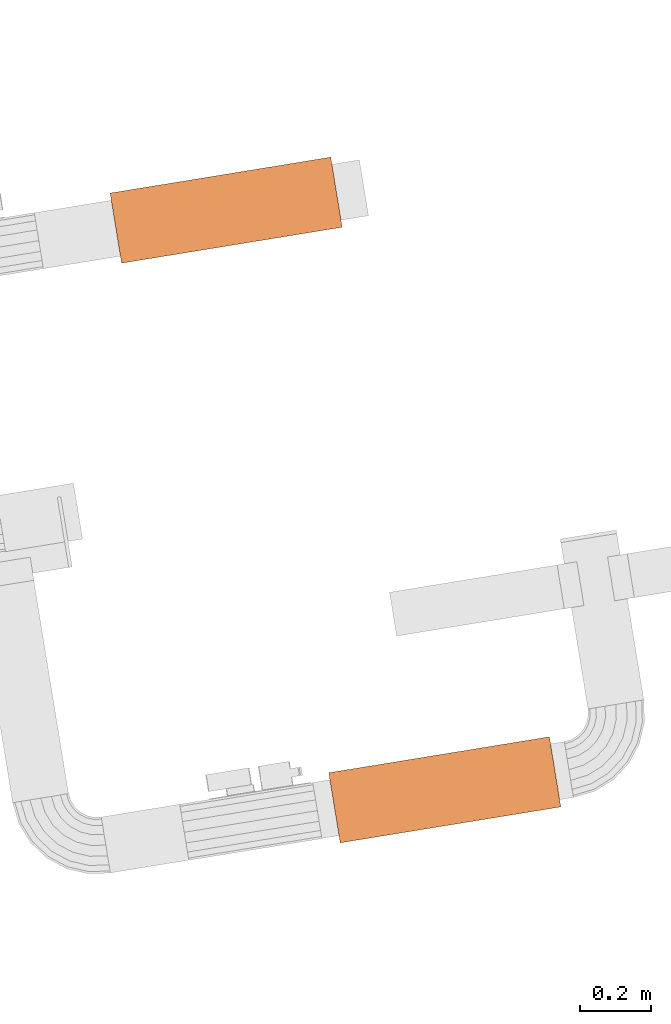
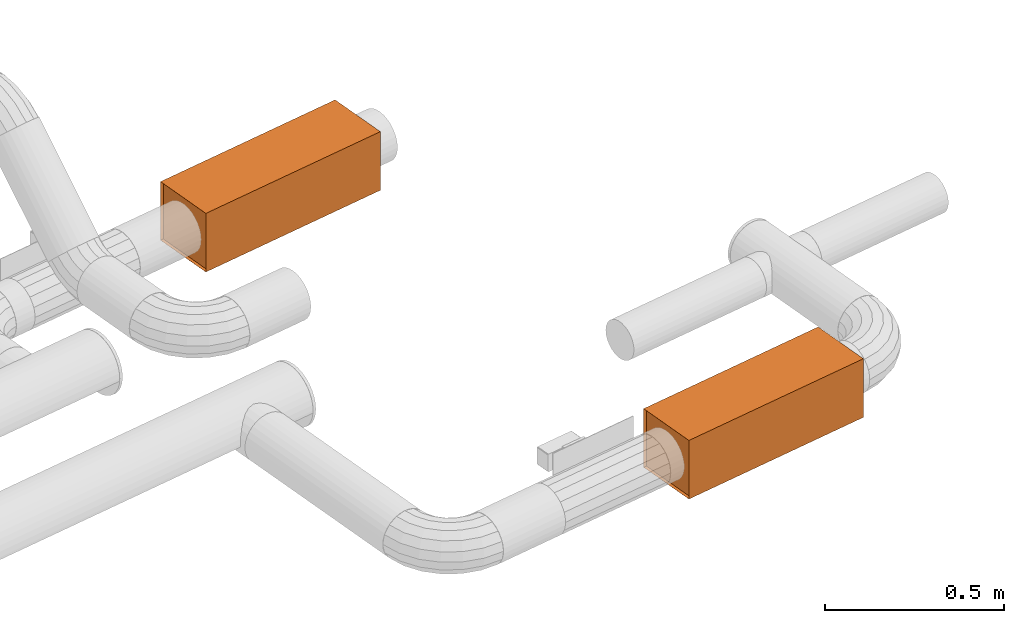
# One storey, part 19 of 19: 2 proxies.
"""IFC2X3 building model written with IfcOpenShell, lengths in millimetres."""

from ifc_helpers import new_model, entity, si_unit, converted_unit, derived_unit, direction, frame, frame_2d, origin, origin_with_axes, origin_2d_with_axis, place, context, subcontext, project, spatial, rectangle, extrude, source, transform, mapped, material, type_object, element, save


model = new_model("IFC2X3")

# Units and contexts
model_context = context("Model", 3, precision=0.01, world=origin(), true_north=direction((6.12323399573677e-17, 1.0)))
plan_context = context("Plan", 3, precision=1e-05, world=origin_with_axes())
body_context = subcontext(model_context, "Body", "Model", "MODEL_VIEW")
ifc_project = project(units=[converted_unit("PLANEANGLEUNIT", "DEGREE", entity("IfcPositiveLengthMeasure", 0.0174532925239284), si_unit("PLANEANGLEUNIT", "RADIAN"), dimensions=[0, 0, 0, 0, 0, 0, 0]), si_unit("AREAUNIT", "SQUARE_METRE"), si_unit("LENGTHUNIT", "METRE", prefix="MILLI"), si_unit("MASSUNIT", "GRAM", prefix="KILO"), si_unit("POWERUNIT", "WATT"), si_unit("PRESSUREUNIT", "PASCAL", prefix="KILO"), si_unit("FORCEUNIT", "NEWTON", prefix="KILO"), si_unit("ELECTRICVOLTAGEUNIT", "VOLT"), si_unit("ELECTRICCURRENTUNIT", "AMPERE"), si_unit("THERMODYNAMICTEMPERATUREUNIT", "DEGREE_CELSIUS"), si_unit("TIMEUNIT", "SECOND"), si_unit("VOLUMEUNIT", "CUBIC_METRE"), derived_unit("LINEARVELOCITYUNIT", [(si_unit("LENGTHUNIT", "METRE"), 1), (si_unit("TIMEUNIT", "SECOND"), -1)]), derived_unit("VOLUMETRICFLOWRATEUNIT", [(si_unit("VOLUMEUNIT", "CUBIC_METRE"), 1), (si_unit("TIMEUNIT", "SECOND"), -1)]), derived_unit("THERMALTRANSMITTANCEUNIT", [(si_unit("POWERUNIT", "WATT"), 1), (si_unit("THERMODYNAMICTEMPERATUREUNIT", "KELVIN"), -1), (si_unit("AREAUNIT", "SQUARE_METRE"), -1)]), derived_unit("SOUNDPRESSUREUNIT", [(si_unit("PRESSUREUNIT", "PASCAL"), 1)])], contexts=[model_context, plan_context])

# Site, building, storey
site_placement = place(None, frame((5.09380697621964e-08, 5.80416781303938e-08, 0.0), z_axis=(0.0, 0.0, 1.0), x_axis=(-0.160806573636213, 0.986985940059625, 0.0)))
site = spatial("IfcSite", under=ifc_project, at=site_placement, Name="Default", CompositionType="ELEMENT")
building_placement = place(site_placement, frame((0.0, 0.0, 0.0), z_axis=(0.0, 0.0, 1.0), x_axis=(1.0, -2.77555756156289e-17, 0.0)))
building = spatial("IfcBuilding", under=site, at=building_placement, Name="Bygning (endres i Project Information)", CompositionType="ELEMENT")
storey_placement = place(building_placement, frame((0.0, 0.0, 51360.0000000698), z_axis=(0.0, 0.0, 1.0), x_axis=(1.0, -2.77555756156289e-17, 0.0)))
storey = spatial("IfcBuildingStorey", under=building, at=storey_placement, Name="H01-Nivå D+0,36", CompositionType="ELEMENT", Elevation=51360.0000000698)

# Proxies
ifc_material_1 = material(Name="3601.001 Avtrekk")
building_element_proxy_type_1 = type_object("IfcBuildingElementProxyType", Name="LKR-600:LKR-160-600", PredefinedType="NOTDEFINED", material=ifc_material_1)
shared_shape_1 = source(origin(), body_context, "Body", "SweptSolid", [
    extrude(rectangle(XDim=199.800003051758, YDim=0.200000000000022, at=frame_2d((0.0, -3.38409855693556e-14), x_axis=(1.0, 0.0))), frame((-305.0, -1.52587891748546e-06, -99.9000030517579), z_axis=(0.0, 0.0, 1.0), x_axis=(0.0, -1.0, 0.0)), (0.0, 0.0, 1.0), 199.800003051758),
    extrude(rectangle(XDim=199.800003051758, YDim=0.200000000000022, at=frame_2d((0.0, -3.38409855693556e-14), x_axis=(1.0, 0.0))), frame((305.0, -1.52587891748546e-06, -99.9000030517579), z_axis=(0.0, 0.0, 1.0), x_axis=(0.0, -1.0, 0.0)), (0.0, 0.0, 1.0), 199.800003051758),
    extrude(rectangle(XDim=629.999999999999, YDim=0.200000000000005, at=frame_2d((0.0, -8.45851166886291e-15), x_axis=(1.0, 0.0))), frame((0.0, 100.0, -100.0), z_axis=(0.0, 0.0, 1.0), x_axis=(-1.0, 0.0, 0.0)), (0.0, 0.0, 1.0), 200.0),
    extrude(rectangle(XDim=629.999999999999, YDim=0.200000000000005, at=frame_2d((0.0, -8.45851166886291e-15), x_axis=(1.0, 0.0))), frame((0.0, -100.0, -100.0), z_axis=(0.0, 0.0, 1.0), x_axis=(-1.0, 0.0, 0.0)), (0.0, 0.0, 1.0), 200.0),
    extrude(rectangle(XDim=629.999999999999, YDim=200.0, at=origin_2d_with_axis()), frame((0.0, 0.0, 99.8999999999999)), (0.0, 0.0, 1.0), 0.200000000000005),
    extrude(rectangle(XDim=629.999999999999, YDim=200.0, at=origin_2d_with_axis()), frame((0.0, 0.0, -100.1)), (0.0, 0.0, 1.0), 0.200000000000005),
])
proxy_1_placement = place(storey_placement, frame((1009078.36764293, -387429.81291756, 3150.0), z_axis=(0.0, 0.0, 1.0), x_axis=(-2.77555756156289e-17, -1.0, 0.0)))
element("IfcBuildingElementProxy", 1, at=proxy_1_placement, inside=storey, type_object=building_element_proxy_type_1, material=ifc_material_1, Name="LKR-600:LKR-160-600", ObjectType="LKR-600:LKR-160-600", context=body_context, shape_type="MappedRepresentation", body=[
    mapped(shared_shape_1, transform((0.0, 0.0, 0.0), scale=1.0)),
])
ifc_material_2 = material(Name="3601.001 Tilluft")
building_element_proxy_type_2 = type_object("IfcBuildingElementProxyType", Name="LKR-600:LKR-160-600", PredefinedType="NOTDEFINED", material=ifc_material_2)
shared_shape_2 = source(origin(), body_context, "Body", "SweptSolid", [
    extrude(rectangle(XDim=0.200000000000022, YDim=199.800003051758, at=frame_2d((-3.38409855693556e-14, 0.0), x_axis=(1.0, 0.0))), frame((-305.0, 1.52587891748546e-06, -99.9000030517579)), (0.0, 0.0, 1.0), 199.800003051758),
    extrude(rectangle(XDim=0.200000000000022, YDim=199.800003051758, at=frame_2d((-3.38409855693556e-14, 0.0), x_axis=(1.0, 0.0))), frame((305.0, 1.52587891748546e-06, -99.9000030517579)), (0.0, 0.0, 1.0), 199.800003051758),
    extrude(rectangle(XDim=0.200000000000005, YDim=629.999999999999, at=frame_2d((-8.45851166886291e-15, 0.0), x_axis=(1.0, 0.0))), frame((0.0, -100.0, -100.0), z_axis=(0.0, 0.0, 1.0), x_axis=(0.0, 1.0, 0.0)), (0.0, 0.0, 1.0), 200.0),
    extrude(rectangle(XDim=0.200000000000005, YDim=629.999999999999, at=frame_2d((-8.45851166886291e-15, 0.0), x_axis=(1.0, 0.0))), frame((0.0, 100.0, -100.0), z_axis=(0.0, 0.0, 1.0), x_axis=(0.0, 1.0, 0.0)), (0.0, 0.0, 1.0), 200.0),
    extrude(rectangle(XDim=200.0, YDim=629.999999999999, at=origin_2d_with_axis()), frame((0.0, 0.0, 99.8999999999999), z_axis=(0.0, 0.0, 1.0), x_axis=(0.0, -1.0, 0.0)), (0.0, 0.0, 1.0), 0.200000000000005),
    extrude(rectangle(XDim=200.0, YDim=629.999999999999, at=origin_2d_with_axis()), frame((0.0, 0.0, -100.1), z_axis=(0.0, 0.0, 1.0), x_axis=(0.0, -1.0, 0.0)), (0.0, 0.0, 1.0), 0.200000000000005),
])
proxy_2_placement = place(storey_placement, frame((1007366.69116253, -387775.309846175, 3150.0), z_axis=(0.0, 0.0, 1.0), x_axis=(2.77555756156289e-17, 1.0, 0.0)))
element("IfcBuildingElementProxy", 2, at=proxy_2_placement, inside=storey, type_object=building_element_proxy_type_2, material=ifc_material_2, Name="LKR-600:LKR-160-600", ObjectType="LKR-600:LKR-160-600", context=body_context, shape_type="MappedRepresentation", body=[
    mapped(shared_shape_2, transform((0.0, 0.0, 0.0), scale=1.0)),
])

save(model, "model.ifc")
